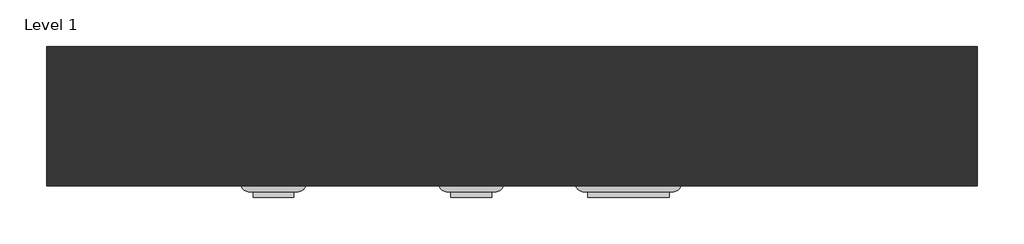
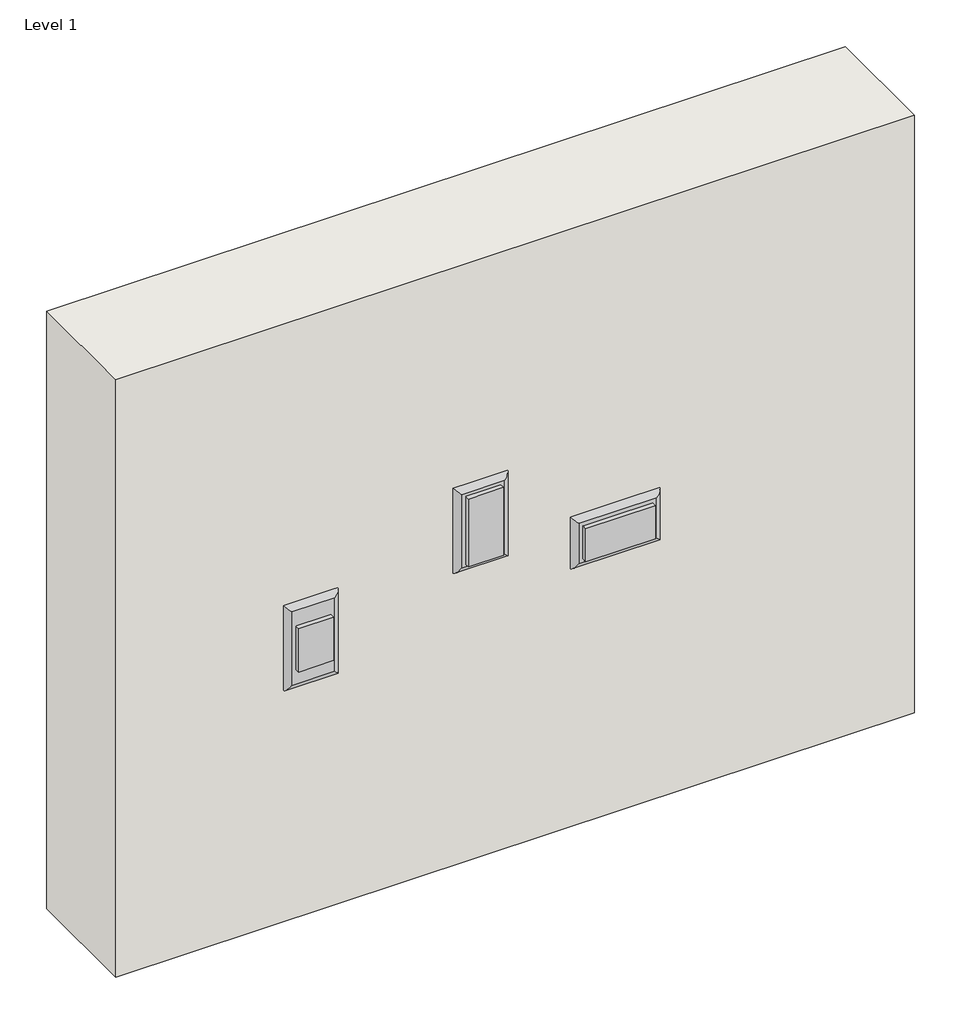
# One storey: 3 proxies, 1 wall.
"""IFC4 building model written with IfcOpenShell, lengths in millimetres."""

import ifcopenshell
import ifcopenshell.guid

model = None  # the IFC model being written
_history = None  # IfcOwnerHistory: only IFC2X3 demands one
_inside = {}  # id of a spatial element -> (the spatial element, [elements in it])
_under = {}  # id of a project, library or spatial element -> (it, [spatial elements below it])
_declared = {}  # id of a project -> (the project, [libraries it declares])
_typed = {}  # id of a type object -> (the type object, [elements of that type])
_made_of = {}  # id of a material, layer set ... -> (it, [elements and type objects made of it])


def new_model(schema):
    """Start an empty IFC model of exactly this schema.

    Asked for "IFC4X3", IfcOpenShell would pick the latest addendum, in which some entities
    have other attributes; the version numbers below select the first issue.
    IFC2X3 requires an IfcOwnerHistory on every rooted entity: one is made here for all.
    """
    global model, _history
    if schema == "IFC4X3":
        model = ifcopenshell.file(schema_version=(4, 3, 0, 0))
    else:
        model = ifcopenshell.file(schema=schema)
    _inside.clear()
    _under.clear()
    _declared.clear()
    _typed.clear()
    _made_of.clear()
    _history = None
    if model.schema == "IFC2X3":
        org = make("IfcOrganization", Name="unknown")
        user = make(
            "IfcPersonAndOrganization",
            ThePerson=make("IfcPerson", FamilyName="unknown"),
            TheOrganization=org,
        )
        app = make(
            "IfcApplication",
            ApplicationDeveloper=org,
            Version="unknown",
            ApplicationFullName="unknown",
            ApplicationIdentifier="unknown",
        )
        _history = make(
            "IfcOwnerHistory",
            OwningUser=user,
            OwningApplication=app,
            ChangeAction="ADDED",
            CreationDate=0,
        )
    return model


def make(cls, **values):
    """One entity of the class cls with the attributes given. An attribute that is None is left unset."""
    return model.create_entity(
        cls, **{name: value for name, value in values.items() if value is not None}
    )


def rooted(cls, **values):
    """An entity with a GlobalId (a new one), such as an element, a storey or a relation."""
    return make(cls, GlobalId=ifcopenshell.guid.new(), OwnerHistory=_history, **values)


def si_unit(unit_type, name, prefix=None):
    """IfcSIUnit, for example si_unit("LENGTHUNIT", "METRE", prefix="MILLI")."""
    return make("IfcSIUnit", UnitType=unit_type, Prefix=prefix, Name=name)


def assignment(units):
    """IfcUnitAssignment: the units of a project."""
    return None if units is None else make("IfcUnitAssignment", Units=units)


def point(xyz):
    """IfcCartesianPoint."""
    return None if xyz is None else make("IfcCartesianPoint", Coordinates=xyz)


def direction(xyz):
    """IfcDirection."""
    return None if xyz is None else make("IfcDirection", DirectionRatios=xyz)


def frame(location, z_axis=None, x_axis=None):
    """IfcAxis2Placement3D, a coordinate frame: its origin and axes. An axis left out is left unset."""
    return make(
        "IfcAxis2Placement3D",
        Location=point(location),
        Axis=direction(z_axis),
        RefDirection=direction(x_axis),
    )


def origin():
    """The frame at (0, 0, 0) with its axes left unset."""
    return frame((0.0, 0.0, 0.0))


def place(relative_to, where):
    """IfcLocalPlacement: puts the frame where relative to a parent placement (None: the world)."""
    return make(
        "IfcLocalPlacement", PlacementRelTo=relative_to, RelativePlacement=where
    )


def context(
    kind, dimensions, precision=None, world=None, true_north=None, identifier=None
):
    """IfcGeometricRepresentationContext, for example the 3D "Model" context."""
    return make(
        "IfcGeometricRepresentationContext",
        ContextIdentifier=identifier,
        ContextType=kind,
        CoordinateSpaceDimension=dimensions,
        Precision=precision,
        WorldCoordinateSystem=world,
        TrueNorth=true_north,
    )


def project(units=None, contexts=None):
    """IfcProject with its units and contexts."""
    return rooted(
        "IfcProject",
        Name="project",
        RepresentationContexts=contexts,
        UnitsInContext=assignment(units),
    )


def spatial(cls, under=None, at=None, **own):
    """A site, building, storey or space (cls), placed at a placement, below another one or the project."""
    s = rooted(cls, ObjectPlacement=at, **own)
    if under is not None:
        _under.setdefault(under.id(), (under, []))[1].append(s)
    return s


def polyline(points):
    """IfcPolyline through the points."""
    return make("IfcPolyline", Points=[point(p) for p in points])


def ellipse_curve(where, semi_axis1, semi_axis2):
    """IfcEllipse in the frame where."""
    return make(
        "IfcEllipse", Position=where, SemiAxis1=semi_axis1, SemiAxis2=semi_axis2
    )


def outline(outer, holes=None, kind="AREA"):
    """IfcArbitraryClosedProfileDef: a profile drawn as a closed curve; with holes, ...WithVoids."""
    if holes is None:
        return make("IfcArbitraryClosedProfileDef", ProfileType=kind, OuterCurve=outer)
    return make(
        "IfcArbitraryProfileDefWithVoids",
        ProfileType=kind,
        OuterCurve=outer,
        InnerCurves=holes,
    )


def extrude(swept, where, along, depth):
    """IfcExtrudedAreaSolid: the profile swept, set in the frame where, extruded along a direction by depth."""
    return make(
        "IfcExtrudedAreaSolid",
        SweptArea=swept,
        Position=where,
        ExtrudedDirection=direction(along),
        Depth=depth,
    )


def shape(context_of_items, identifier, shape_type, items):
    """IfcShapeRepresentation: the items that make up one representation, for example the "Body"."""
    return make(
        "IfcShapeRepresentation",
        ContextOfItems=context_of_items,
        RepresentationIdentifier=identifier,
        RepresentationType=shape_type,
        Items=items,
    )


def source(mapping_origin, context_of_items, identifier, shape_type, items):
    """IfcRepresentationMap: a shape defined once, which mapped items show again and again."""
    return make(
        "IfcRepresentationMap",
        MappingOrigin=mapping_origin,
        MappedRepresentation=shape(context_of_items, identifier, shape_type, items),
    )


def transform(
    local_origin,
    x_axis=None,
    y_axis=None,
    z_axis=None,
    scale=None,
    scale2=None,
    scale3=None,
    uniform=True,
):
    """IfcCartesianTransformationOperator3D, or its non-uniform kind. x_axis, y_axis, z_axis: its Axis1, 2, 3."""
    if uniform:
        return make(
            "IfcCartesianTransformationOperator3D",
            Axis1=direction(x_axis),
            Axis2=direction(y_axis),
            LocalOrigin=point(local_origin),
            Scale=scale,
            Axis3=direction(z_axis),
        )
    return make(
        "IfcCartesianTransformationOperator3DnonUniform",
        Axis1=direction(x_axis),
        Axis2=direction(y_axis),
        LocalOrigin=point(local_origin),
        Scale=scale,
        Axis3=direction(z_axis),
        Scale2=scale2,
        Scale3=scale3,
    )


def mapped(mapping_source, mapping_target):
    """IfcMappedItem: shows the shape of a source again, moved by a transform."""
    return make(
        "IfcMappedItem", MappingSource=mapping_source, MappingTarget=mapping_target
    )


def made_of(thing, what):
    """Note that an element or type object is made of a material, layer set ...; save() writes the relation."""
    if what is not None:
        _made_of.setdefault(what.id(), (what, []))[1].append(thing)
    return thing


def element(
    cls,
    number,
    at=None,
    inside=None,
    cuts=None,
    type_object=None,
    material=None,
    context=None,
    identifier="Body",
    shape_type=None,
    held_by="IfcProductDefinitionShape",
    body=None,
    shapes=None,
    **own,
):
    """One element of the class cls, such as IfcWall. Its Tag is "e" and its number.

    at: its placement. inside: the storey or other place that contains it. cuts: it is an
    opening in that element (IfcRelVoidsElement). A single representation is given by context,
    identifier, shape_type and body (its items); several are given by shapes. held_by: the class
    of the entity that holds the representations. save() writes the other relations.
    """
    e = rooted(cls, Tag="e%d" % number, ObjectPlacement=at, **own)
    if body is not None:
        shapes = [shape(context, identifier, shape_type, body)]
    if shapes is not None:
        e.Representation = make(held_by, Representations=shapes)
    if inside is not None:
        _inside.setdefault(inside.id(), (inside, []))[1].append(e)
    if cuts is not None:
        rooted(
            "IfcRelVoidsElement", RelatingBuildingElement=cuts, RelatedOpeningElement=e
        )
    if type_object is not None:
        _typed.setdefault(type_object.id(), (type_object, []))[1].append(e)
    return made_of(e, material)


def aggregate(whole, parts):
    """IfcRelAggregates: a whole, such as a stair, and the parts it consists of."""
    return rooted("IfcRelAggregates", RelatingObject=whole, RelatedObjects=parts)


def save(model, path):
    """Write the relations noted so far, then the file.

    IfcRelAggregates (storeys below a building ...), IfcRelContainedInSpatialStructure (elements
    in a storey), IfcRelDefinesByType, IfcRelAssociatesMaterial and IfcRelDeclares: one each for
    every whole, place, type object, material and project.
    """
    for whole, parts in _under.values():
        aggregate(whole, parts)
    for where, things in _inside.values():
        rooted(
            "IfcRelContainedInSpatialStructure",
            RelatedElements=things,
            RelatingStructure=where,
        )
    for kind, things in _typed.values():
        rooted("IfcRelDefinesByType", RelatedObjects=things, RelatingType=kind)
    for what, things in _made_of.values():
        rooted("IfcRelAssociatesMaterial", RelatedObjects=things, RelatingMaterial=what)
    for by, libraries in _declared.values():
        rooted("IfcRelDeclares", RelatingContext=by, RelatedDefinitions=libraries)
    model.write(path)


def plane_surface(at):
    """IfcPlane: the flat surface through the origin of the frame at, square to its z axis."""
    return make("IfcPlane", Position=at)


def cylinder_surface(at, radius):
    """IfcCylindricalSurface: all points at the distance radius from the z axis of the frame at."""
    return make("IfcCylindricalSurface", Position=at, Radius=radius)


def advanced_brep(points, edges, surfaces, faces):
    """IfcAdvancedBrep: a solid bounded by faces that lie on surfaces and meet in shared edges.

    An edge is (start, end): straight between two places in points (the first is 0);
    or (start, end, curve); or (start, end, curve, False) where it runs against its curve.
    A face is (place in surfaces, loops), or (place, loops, False) where it looks against
    its surface's normal. A loop lists edges by number (the first is 1), with a minus sign
    where the edge is run from its end to its start. The first loop is the outer one.
    """
    corners = [point(p) for p in points]
    vertices = [make("IfcVertexPoint", VertexGeometry=c) for c in corners]
    made = []
    for start, end, *more in edges:
        made.append(
            make(
                "IfcEdgeCurve",
                EdgeStart=vertices[start],
                EdgeEnd=vertices[end],
                EdgeGeometry=more[0] if more else make("IfcPolyline", Points=[corners[start], corners[end]]),
                SameSense=more[1] if len(more) > 1 else True,
            )
        )
    hull = []
    for where, loops, *sense in faces:
        bounds = []
        for j, loop in enumerate(loops):
            ring = [make("IfcOrientedEdge", EdgeElement=made[abs(k) - 1], Orientation=k > 0) for k in loop]
            bounds.append(
                make(
                    "IfcFaceOuterBound" if j == 0 else "IfcFaceBound",
                    Bound=make("IfcEdgeLoop", EdgeList=ring),
                    Orientation=True,
                )
            )
        hull.append(make("IfcAdvancedFace", Bounds=bounds, FaceSurface=surfaces[where], SameSense=sense[0] if sense else True))
    return make("IfcAdvancedBrep", Outer=make("IfcClosedShell", CfsFaces=hull))


def electrical_fixtures_d2f4d0e3(model_context):
    return source(origin(), model_context, "Body", "SolidModel", [
        advanced_brep(
        [(-27.305, -49.53, 6.35), (-34.925, -57.15, 0.0), (34.925, -57.15, 0.0), (27.305, -49.53, 6.35), (-27.305, 49.53, 6.35), (-34.925, 57.15, 0.0), (27.305, 49.53, 6.35), (34.925, 57.15, 0.0)],
        [
            (0, 1, ellipse_curve(frame((-27.305, -49.53, -1.397), z_axis=(0.7071067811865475, -0.7071067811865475, 0.0), x_axis=(-0.7071067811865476, -0.7071067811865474, 0.0)), 10.9559125, 7.747)),
            (1, 2),
            (2, 3, ellipse_curve(frame((27.305, -49.53, -1.397), z_axis=(-0.7071067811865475, -0.7071067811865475, 0.0), x_axis=(-0.7071067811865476, 0.7071067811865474, 0.0)), 10.9559125, 7.747)),
            (3, 0),
            (0, 4),
            (4, 5, ellipse_curve(frame((-27.305, 49.53, -1.397), z_axis=(-0.7071067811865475, -0.7071067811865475, 0.0), x_axis=(-0.7071067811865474, 0.7071067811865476, 0.0)), 10.9559125, 7.747)),
            (5, 1),
            (4, 6),
            (6, 7, ellipse_curve(frame((27.305, 49.53, -1.397), z_axis=(-0.7071067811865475, 0.7071067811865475, 0.0), x_axis=(0.7071067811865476, 0.7071067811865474, 0.0)), 10.9559125, 7.747)),
            (7, 5),
            (2, 7),
            (6, 3),
        ],
        [
            cylinder_surface(frame((34.925, -49.53, -1.397), z_axis=(-1.0, 0.0, 0.0), x_axis=(0.0, -1.0, 0.0)), 7.747),
            cylinder_surface(frame((-27.305, -57.15, -1.397), z_axis=(0.0, 1.0, 0.0), x_axis=(-1.0, 0.0, 0.0)), 7.747),
            cylinder_surface(frame((-34.925, 49.53, -1.397), z_axis=(1.0, 0.0, 0.0), x_axis=(0.0, 1.0, 0.0)), 7.747),
            cylinder_surface(frame((27.305, 57.15, -1.397), z_axis=(0.0, -1.0, 0.0), x_axis=(1.0, 0.0, 0.0)), 7.747),
            plane_surface(frame((-34.925, 57.15, 6.35), z_axis=(0.0, 0.0, 1.0), x_axis=(-1.0, 0.0, 0.0))),
            plane_surface(frame((-34.925, 57.15, 0.0), z_axis=(0.0, 0.0, -1.0), x_axis=(1.0, 0.0, 0.0))),
        ],
        [
            (0, [[1, 2, 3, 4]]),
            (1, [[-1, 5, 6, 7]]),
            (2, [[-6, 8, 9, 10]]),
            (3, [[-3, 11, -9, 12]]),
            (4, [[-4, -12, -8, -5]]),
            (5, [[-2, -7, -10, -11]]),
        ],
    ),
        extrude(outline(polyline([(22.225, 29.1719), (22.225, -29.1719), (-22.225, -29.1719), (-22.225, 29.1719), (22.225, 29.1719)])), frame((0.0, 0.0, 6.35), z_axis=(0.0, 0.0, 1.0), x_axis=(1.0, 0.0, 0.0)), (0.0, 0.0, 1.0), 6.35),
        extrude(outline(polyline([(21.844, 35.179), (21.844, -35.179), (-21.844, -35.179), (-21.844, 35.179), (21.844, 35.179)])), frame((0.0, 0.0, -12.7), z_axis=(0.0, 0.0, 1.0), x_axis=(1.0, 0.0, 0.0)), (0.0, 0.0, 1.0), 12.7),
    ])


def electrical_fixtures_f4730aa6(model_context):
    return source(origin(), model_context, "Body", "SolidModel", [
        advanced_brep(
        [(-27.305, -49.53, 6.35), (-34.925, -57.15, 0.0), (34.925, -57.15, 0.0), (27.305, -49.53, 6.35), (-27.305, 49.53, 6.35), (-34.925, 57.15, 0.0), (27.305, 49.53, 6.35), (34.925, 57.15, 0.0)],
        [
            (0, 1, ellipse_curve(frame((-27.305, -49.53, -1.397), z_axis=(0.7071067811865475, -0.7071067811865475, 0.0), x_axis=(-0.7071067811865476, -0.7071067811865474, 0.0)), 10.9559125, 7.747)),
            (1, 2),
            (2, 3, ellipse_curve(frame((27.305, -49.53, -1.397), z_axis=(-0.7071067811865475, -0.7071067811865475, 0.0), x_axis=(-0.7071067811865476, 0.7071067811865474, 0.0)), 10.9559125, 7.747)),
            (3, 0),
            (0, 4),
            (4, 5, ellipse_curve(frame((-27.305, 49.53, -1.397), z_axis=(-0.7071067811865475, -0.7071067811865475, 0.0), x_axis=(-0.7071067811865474, 0.7071067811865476, 0.0)), 10.9559125, 7.747)),
            (5, 1),
            (4, 6),
            (6, 7, ellipse_curve(frame((27.305, 49.53, -1.397), z_axis=(-0.7071067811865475, 0.7071067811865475, 0.0), x_axis=(0.7071067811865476, 0.7071067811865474, 0.0)), 10.9559125, 7.747)),
            (7, 5),
            (2, 7),
            (6, 3),
        ],
        [
            cylinder_surface(frame((34.925, -49.53, -1.397), z_axis=(-1.0, 0.0, 0.0), x_axis=(0.0, -1.0, 0.0)), 7.747),
            cylinder_surface(frame((-27.305, -57.15, -1.397), z_axis=(0.0, 1.0, 0.0), x_axis=(-1.0, 0.0, 0.0)), 7.747),
            cylinder_surface(frame((-34.925, 49.53, -1.397), z_axis=(1.0, 0.0, 0.0), x_axis=(0.0, 1.0, 0.0)), 7.747),
            cylinder_surface(frame((27.305, 57.15, -1.397), z_axis=(0.0, -1.0, 0.0), x_axis=(1.0, 0.0, 0.0)), 7.747),
            plane_surface(frame((-34.925, 57.15, 6.35), z_axis=(0.0, 0.0, 1.0), x_axis=(-1.0, 0.0, 0.0))),
            plane_surface(frame((-34.925, 57.15, 0.0), z_axis=(0.0, 0.0, -1.0), x_axis=(1.0, 0.0, 0.0))),
        ],
        [
            (0, [[1, 2, 3, 4]]),
            (1, [[-1, 5, 6, 7]]),
            (2, [[-6, 8, 9, 10]]),
            (3, [[-3, 11, -9, 12]]),
            (4, [[-4, -12, -8, -5]]),
            (5, [[-2, -7, -10, -11]]),
        ],
    ),
        extrude(outline(polyline([(22.225, 45.6438), (22.225, -45.6438), (-22.225, -45.6438), (-22.225, 45.6438), (22.225, 45.6438)])), frame((0.0, 0.0, 6.35), z_axis=(0.0, 0.0, 1.0), x_axis=(1.0, 0.0, 0.0)), (0.0, 0.0, 1.0), 6.35),
        extrude(outline(polyline([(21.844, 35.179), (21.844, -35.179), (-21.844, -35.179), (-21.844, 35.179), (21.844, 35.179)])), frame((0.0, 0.0, -12.7), z_axis=(0.0, 0.0, 1.0), x_axis=(1.0, 0.0, 0.0)), (0.0, 0.0, 1.0), 12.7),
    ])


def electrical_fixtures_830e8c85(model_context):
    return source(origin(), model_context, "Body", "SolidModel", [
        advanced_brep(
        [(-49.53, -27.305, 6.35), (-57.15, -34.925, 0.0), (57.15, -34.925, 0.0), (49.53, -27.305, 6.35), (-49.53, 27.305, 6.35), (-57.15, 34.925, 0.0), (49.53, 27.305, 6.35), (57.15, 34.925, 0.0)],
        [
            (0, 1, ellipse_curve(frame((-49.53, -27.305, -1.397), z_axis=(0.7071067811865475, -0.7071067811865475, 0.0), x_axis=(-0.7071067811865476, -0.7071067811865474, 0.0)), 10.9559125, 7.747)),
            (1, 2),
            (2, 3, ellipse_curve(frame((49.53, -27.305, -1.397), z_axis=(-0.7071067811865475, -0.7071067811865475, 0.0), x_axis=(-0.7071067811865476, 0.7071067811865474, 0.0)), 10.9559125, 7.747)),
            (3, 0),
            (0, 4),
            (4, 5, ellipse_curve(frame((-49.53, 27.305, -1.397), z_axis=(-0.7071067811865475, -0.7071067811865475, 0.0), x_axis=(-0.7071067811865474, 0.7071067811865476, 0.0)), 10.9559125, 7.747)),
            (5, 1),
            (4, 6),
            (6, 7, ellipse_curve(frame((49.53, 27.305, -1.397), z_axis=(-0.7071067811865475, 0.7071067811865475, 0.0), x_axis=(0.7071067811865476, 0.7071067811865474, 0.0)), 10.9559125, 7.747)),
            (7, 5),
            (2, 7),
            (6, 3),
        ],
        [
            cylinder_surface(frame((57.15, -27.305, -1.397), z_axis=(-1.0, 0.0, 0.0), x_axis=(0.0, -1.0, 0.0)), 7.747),
            cylinder_surface(frame((-49.53, -34.925, -1.397), z_axis=(0.0, 1.0, 0.0), x_axis=(-1.0, 0.0, 0.0)), 7.747),
            cylinder_surface(frame((-57.15, 27.305, -1.397), z_axis=(1.0, 0.0, 0.0), x_axis=(0.0, 1.0, 0.0)), 7.747),
            cylinder_surface(frame((49.53, 34.925, -1.397), z_axis=(0.0, -1.0, 0.0), x_axis=(1.0, 0.0, 0.0)), 7.747),
            plane_surface(frame((-57.15, 34.925, 6.35), z_axis=(0.0, 0.0, 1.0), x_axis=(-1.0, 0.0, 0.0))),
            plane_surface(frame((-57.15, 34.925, 0.0), z_axis=(0.0, 0.0, -1.0), x_axis=(1.0, 0.0, 0.0))),
        ],
        [
            (0, [[1, 2, 3, 4]]),
            (1, [[-1, 5, 6, 7]]),
            (2, [[-6, 8, 9, 10]]),
            (3, [[-3, 11, -9, 12]]),
            (4, [[-4, -12, -8, -5]]),
            (5, [[-2, -7, -10, -11]]),
        ],
    ),
        extrude(outline(polyline([(44.45, 22.225), (44.45, -22.225), (-44.45, -22.225), (-44.45, 22.225), (44.45, 22.225)])), frame((0.0, 0.0, 6.35), z_axis=(0.0, 0.0, 1.0), x_axis=(1.0, 0.0, 0.0)), (0.0, 0.0, 1.0), 6.35),
        extrude(outline(polyline([(35.179, 21.844), (35.179, -21.844), (-35.179, -21.844), (-35.179, 21.844), (35.179, 21.844)])), frame((0.0, 0.0, -12.7), z_axis=(0.0, 0.0, 1.0), x_axis=(1.0, 0.0, 0.0)), (0.0, 0.0, 1.0), 12.7),
    ])


model = new_model("IFC4")

# Units and contexts
model_context = context("Model", 3, world=origin())
ifc_project = project(units=[si_unit("LENGTHUNIT", "METRE", prefix="MILLI")], contexts=[model_context])

# Site, building, storey
site = spatial("IfcSite", under=ifc_project)
building = spatial("IfcBuilding", under=site)
storey = spatial("IfcBuildingStorey", under=building, Name="Level 1", Elevation=0.0)

# Proxies
placement = place(None, origin())
electrical_fixtures_shape = electrical_fixtures_d2f4d0e3(model_context)
element("IfcBuildingElementProxy", 1, Name="Cover_Plate-Wall-Pass_And_Seymour-Steel_Covers : Vertical, Toggle, Single", ObjectType="Cover_Plate-Wall-Pass_And_Seymour-Steel_Covers : Vertical, Toggle, Single", at=placement, inside=storey, context=model_context, shape_type="MappedRepresentation", body=[
    mapped(electrical_fixtures_shape, transform((2614.2473575, 1963.1766815, 911.3975881), x_axis=(1.0, 0.0, 0.0), y_axis=(0.0, 0.0, 1.0), z_axis=(0.0, -1.0, 0.0))),
])
electrical_fixtures_2_shape = electrical_fixtures_f4730aa6(model_context)
element("IfcBuildingElementProxy", 2, Name="Cover_Plate-Wall-Pass_And_Seymour-Steel_Covers : Vertical, Decorator, Locking", ObjectType="Cover_Plate-Wall-Pass_And_Seymour-Steel_Covers : Vertical, Decorator, Locking", at=placement, inside=storey, context=model_context, shape_type="MappedRepresentation", body=[
    mapped(electrical_fixtures_2_shape, transform((2830.1473575, 1963.1766815, 993.5445537), x_axis=(1.0, 0.0, 0.0), y_axis=(0.0, 0.0, 1.0), z_axis=(0.0, -1.0, 0.0))),
])
electrical_fixtures_3_shape = electrical_fixtures_830e8c85(model_context)
element("IfcBuildingElementProxy", 3, Name="Cover_Plate-Wall-Pass_And_Seymour-Steel_Covers : Horizontal, Decorator", ObjectType="Cover_Plate-Wall-Pass_And_Seymour-Steel_Covers : Horizontal, Decorator", at=placement, inside=storey, context=model_context, shape_type="MappedRepresentation", body=[
    mapped(electrical_fixtures_3_shape, transform((3001.5973575, 1963.1766815, 924.8872898), x_axis=(1.0, 0.0, 0.0), y_axis=(0.0, 0.0, 1.0), z_axis=(0.0, -1.0, 0.0))),
])

# Wall
element("IfcWall", 4, ObjectType="Exterior - 6\" Generic", at=placement, inside=storey, context=model_context, shape_type="SweptSolid", body=[
    extrude(outline(polyline([(3382.5973575, 1963.1766815), (2366.5973575, 1963.1766815), (2366.5973575, 2115.5766815), (3382.5973575, 2115.5766815), (3382.5973575, 1963.1766815)])), frame((0.0, 0.0, 542.8901471), z_axis=(0.0, 0.0, 1.0), x_axis=(1.0, 0.0, 0.0)), (0.0, 0.0, 1.0), 803.3098529),
])

save(model, "model.ifc")
